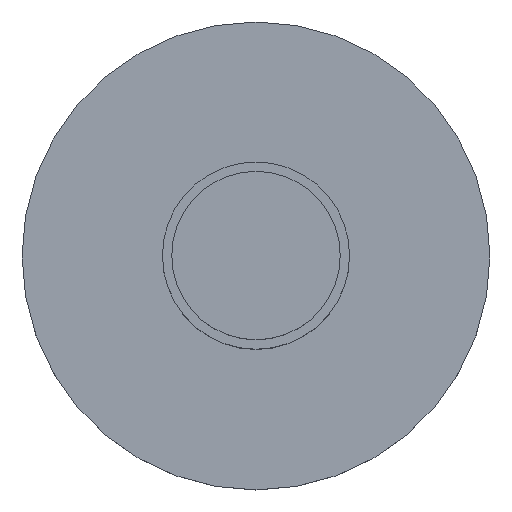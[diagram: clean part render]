
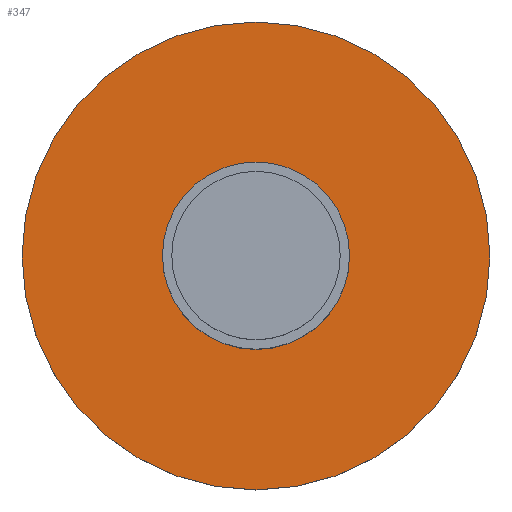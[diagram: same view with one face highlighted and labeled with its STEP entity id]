
A CAD part, top view. The second image highlights one B-rep face of the part: STEP entity #347.
In plain terms, the highlighted planar face has unit normal (0, 0, 1).
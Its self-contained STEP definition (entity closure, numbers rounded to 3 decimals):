
#7 = AXIS2_PLACEMENT_3D ( 'NONE', #256, #161, #391 ) ;
#14 = EDGE_CURVE ( 'NONE', #315, #361, #401, .T. ) ;
#24 = VERTEX_POINT ( 'NONE', #170 ) ;
#29 = ORIENTED_EDGE ( 'NONE', *, *, #14, .F. ) ;
#48 = CARTESIAN_POINT ( 'NONE',  ( 0., 0., 0. ) ) ;
#53 = CIRCLE ( 'NONE', #76, 25. ) ;
#55 = ORIENTED_EDGE ( 'NONE', *, *, #397, .T. ) ;
#57 = VERTEX_POINT ( 'NONE', #146 ) ;
#76 = AXIS2_PLACEMENT_3D ( 'NONE', #343, #153, #381 ) ;
#88 = CARTESIAN_POINT ( 'NONE',  ( 0., 0., 0. ) ) ;
#103 = ORIENTED_EDGE ( 'NONE', *, *, #189, .T. ) ;
#106 = EDGE_LOOP ( 'NONE', ( #103, #55 ) ) ;
#120 = DIRECTION ( 'NONE',  ( 0., -1., 0. ) ) ;
#123 = CARTESIAN_POINT ( 'NONE',  ( 0., 9., 0. ) ) ;
#129 = CARTESIAN_POINT ( 'NONE',  ( 0., 0., 0. ) ) ;
#130 = ORIENTED_EDGE ( 'NONE', *, *, #214, .F. ) ;
#131 = EDGE_LOOP ( 'NONE', ( #130, #29 ) ) ;
#138 = CIRCLE ( 'NONE', #196, 9. ) ;
#146 = CARTESIAN_POINT ( 'NONE',  ( -25., 0., 0. ) ) ;
#153 = DIRECTION ( 'NONE',  ( 0., 0., 1. ) ) ;
#161 = DIRECTION ( 'NONE',  ( 0., 0., 1. ) ) ;
#164 = DIRECTION ( 'NONE',  ( 1., 0., 0. ) ) ;
#170 = CARTESIAN_POINT ( 'NONE',  ( 25., 0., 0. ) ) ;
#185 = CARTESIAN_POINT ( 'NONE',  ( 0., -9., 0. ) ) ;
#189 = EDGE_CURVE ( 'NONE', #24, #57, #53, .T. ) ;
#196 = AXIS2_PLACEMENT_3D ( 'NONE', #88, #316, #120 ) ;
#214 = EDGE_CURVE ( 'NONE', #361, #315, #138, .T. ) ;
#217 = FACE_BOUND ( 'NONE', #131, .T. ) ;
#240 = DIRECTION ( 'NONE',  ( 0., -1., 0. ) ) ;
#256 = CARTESIAN_POINT ( 'NONE',  ( 0., 0., 0. ) ) ;
#266 = CIRCLE ( 'NONE', #350, 25. ) ;
#267 = DIRECTION ( 'NONE',  ( 0., 0., 1. ) ) ;
#303 = FACE_OUTER_BOUND ( 'NONE', #106, .T. ) ;
#315 = VERTEX_POINT ( 'NONE', #123 ) ;
#316 = DIRECTION ( 'NONE',  ( 0., 0., 1. ) ) ;
#317 = AXIS2_PLACEMENT_3D ( 'NONE', #48, #267, #240 ) ;
#343 = CARTESIAN_POINT ( 'NONE',  ( 0., 0., 0. ) ) ;
#347 = ADVANCED_FACE ( 'NONE', ( #303, #217 ), #352, .T. ) ;
#350 = AXIS2_PLACEMENT_3D ( 'NONE', #129, #354, #164 ) ;
#352 = PLANE ( 'NONE',  #7 ) ;
#354 = DIRECTION ( 'NONE',  ( 0., 0., 1. ) ) ;
#361 = VERTEX_POINT ( 'NONE', #185 ) ;
#381 = DIRECTION ( 'NONE',  ( 1., 0., 0. ) ) ;
#391 = DIRECTION ( 'NONE',  ( 1., 0., 0. ) ) ;
#397 = EDGE_CURVE ( 'NONE', #57, #24, #266, .T. ) ;
#401 = CIRCLE ( 'NONE', #317, 9. ) ;
